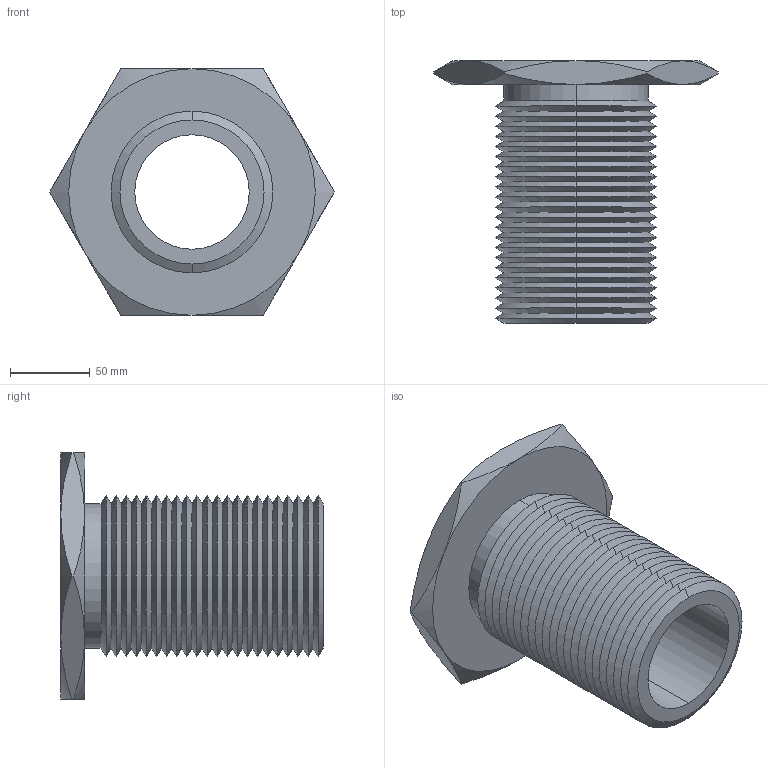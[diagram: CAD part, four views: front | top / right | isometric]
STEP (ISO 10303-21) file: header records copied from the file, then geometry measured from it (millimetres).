
FILE_DESCRIPTION (( 'STEP AP203' ), '1' );
FILE_NAME ('63302.W5400_M72x6.step', '2013-12-08T12:02:36', ( 'User' ), ( '' ), 'SwSTEP 2.0', 'SolidWorks 2009', '' );
FILE_SCHEMA (( 'CONFIG_CONTROL_DESIGN' ));
Length unit declared in the file: millimetre
Products named in the file (1): 63302.W5400_M72x6
Bounding box: 178.98 x 165 x 155 mm (x, y, z)
Volume: 708728.8 mm3; surface area: 163432.4 mm2
Topology: 1 solids, 1 shells, 115 faces, 234 edges, 122 vertices
Faces by surface type: cone 102, plane 9, cylinder 4
Entity records: 3179 total; most frequent: CARTESIAN_POINT 696, DIRECTION 552, ORIENTED_EDGE 468, EDGE_CURVE 234, AXIS2_PLACEMENT_3D 226, VERTEX_POINT 122, EDGE_LOOP 118, ADVANCED_FACE 115
